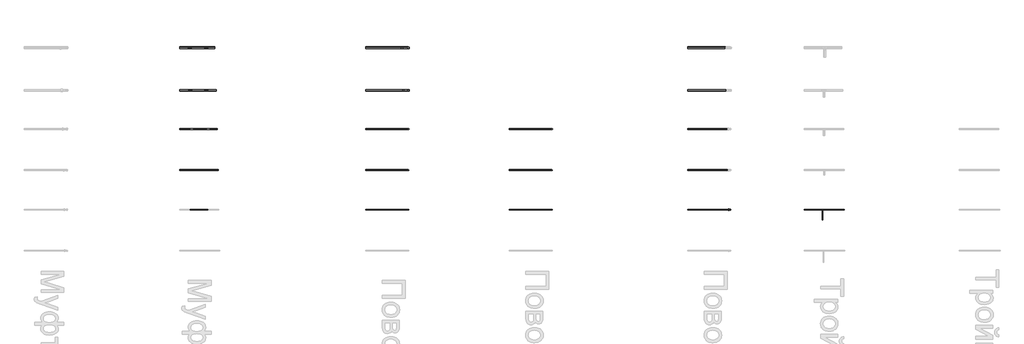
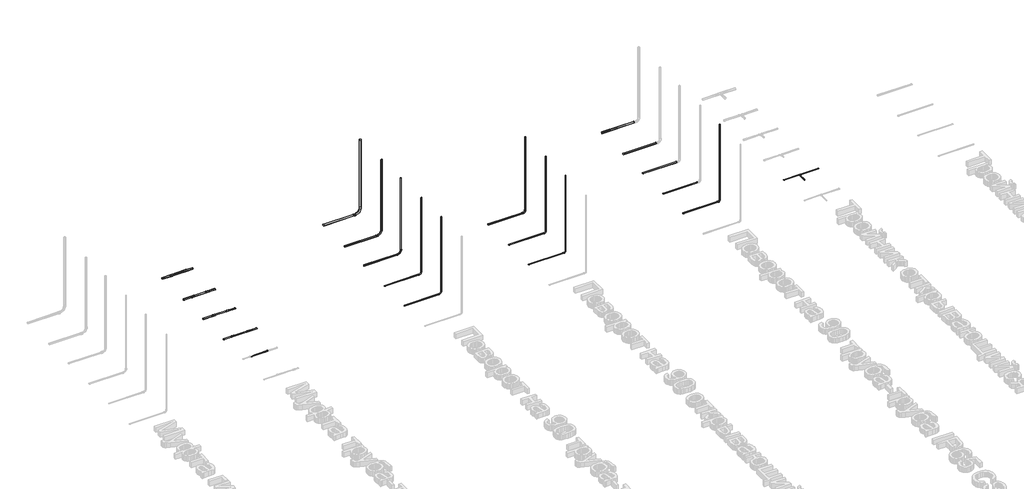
# One storey, part 4 of 33: 38 cable carrier segments, 19 cable carrier fittings.
"""IFC4 building model written with IfcOpenShell, lengths in millimetres."""

from ifc_helpers import new_model, si_unit, point, frame, frame_2d, origin, place, context, project, spatial, circle_curve, trimmed, segment, composite_curve, outline, extrude, transform, mapped, element, save
from components import cable_carrier_fitting_59e1ce25, cable_carrier_fitting_cf892bee, cable_carrier_fitting_6d3d2407, cable_carrier_fitting_2f32caac, cable_carrier_fitting_cf1a74b0, cable_carrier_fitting_bbf9297c, cable_carrier_fitting_fce20a62, cable_carrier_fitting_09f9ef3d, cable_carrier_fitting_f314b148, cable_carrier_fitting_f9eb6493, cable_carrier_fitting_3a765418, cable_carrier_fitting_e2d7f6ec, cable_carrier_fitting_13d0f231, cable_carrier_fitting_7fea5a78, cable_carrier_fitting_1439cf0d

model = new_model("IFC4")

# Units and contexts
model_context = context("Model", 3, world=origin())
ifc_project = project(units=[si_unit("LENGTHUNIT", "METRE", prefix="MILLI")], contexts=[model_context])

# Site, building, storey
site = spatial("IfcSite", under=ifc_project)
building = spatial("IfcBuilding", under=site)
storey = spatial("IfcBuildingStorey", under=building, Name="Уровень 1", Elevation=0.0)

# Cable carrier fittings
placement = place(None, origin())
cable_carrier_fitting_shape = cable_carrier_fitting_59e1ce25(model_context)
element("IfcCableCarrierFitting", 1, ObjectType="Муфта труба-труба IP65 MS : CTA10D-MS20-K41-050", at=placement, inside=storey, context=model_context, shape_type="MappedRepresentation", body=[
    mapped(cable_carrier_fitting_shape, transform((18786.5037048, 1027.6255993, 45.929251), x_axis=(1.0, 0.0, 0.0), y_axis=(0.0, 1.0, 0.0), z_axis=(0.0, 0.0, 1.0))),
])
cable_carrier_fitting_2_shape = cable_carrier_fitting_cf892bee(model_context)
element("IfcCableCarrierFitting", 2, ObjectType="Муфта труба-труба IP65 MS : CTA10D-MS50-K41-010", at=placement, inside=storey, context=model_context, shape_type="MappedRepresentation", body=[
    mapped(cable_carrier_fitting_2_shape, transform((18359.092069, 5207.6255993, 45.929251), x_axis=(-1.0, 0.0, 0.0), y_axis=(0.0, -1.0, 0.0), z_axis=(0.0, 0.0, 1.0))),
])
element("IfcCableCarrierFitting", 3, ObjectType="Муфта труба-труба IP65 MS : CTA10D-MS50-K41-010", at=placement, inside=storey, context=model_context, shape_type="MappedRepresentation", body=[
    mapped(cable_carrier_fitting_2_shape, transform((18784.4507919, 5207.6255993, 45.929251), x_axis=(-1.0, 0.0, 0.0), y_axis=(0.0, -1.0, 0.0), z_axis=(0.0, 0.0, 1.0))),
])
cable_carrier_fitting_3_shape = cable_carrier_fitting_6d3d2407(model_context)
element("IfcCableCarrierFitting", 4, ObjectType="Муфта труба-труба IP65 MS : CTA10D-MS40-K41-020", at=placement, inside=storey, context=model_context, shape_type="MappedRepresentation", body=[
    mapped(cable_carrier_fitting_3_shape, transform((18369.092069, 4107.6255993, 45.929251), x_axis=(-1.0, 0.0, 0.0), y_axis=(0.0, -1.0, 0.0), z_axis=(0.0, 0.0, 1.0))),
])
element("IfcCableCarrierFitting", 5, ObjectType="Муфта труба-труба IP65 MS : CTA10D-MS40-K41-020", at=placement, inside=storey, context=model_context, shape_type="MappedRepresentation", body=[
    mapped(cable_carrier_fitting_3_shape, transform((18780.9727478, 4107.6255993, 45.929251), x_axis=(-1.0, 0.0, 0.0), y_axis=(0.0, -1.0, 0.0), z_axis=(0.0, 0.0, 1.0))),
])
cable_carrier_fitting_4_shape = cable_carrier_fitting_2f32caac(model_context)
element("IfcCableCarrierFitting", 6, ObjectType="Муфта труба-труба IP65 MS : CTA10D-MS32-K41-025", at=placement, inside=storey, context=model_context, shape_type="MappedRepresentation", body=[
    mapped(cable_carrier_fitting_4_shape, transform((18410.0213201, 3107.6255993, 45.929251), x_axis=(-1.0, 0.0, 0.0), y_axis=(0.0, -1.0, 0.0), z_axis=(0.0, 0.0, 1.0))),
])
element("IfcCableCarrierFitting", 7, ObjectType="Муфта труба-труба IP65 MS : CTA10D-MS32-K41-025", at=placement, inside=storey, context=model_context, shape_type="MappedRepresentation", body=[
    mapped(cable_carrier_fitting_4_shape, transform((18831.9019988, 3107.6255993, 45.929251), x_axis=(-1.0, 0.0, 0.0), y_axis=(0.0, -1.0, 0.0), z_axis=(0.0, 0.0, 1.0))),
])
cable_carrier_fitting_5_shape = cable_carrier_fitting_cf1a74b0(model_context)
element("IfcCableCarrierFitting", 8, ObjectType="Муфта труба-труба IP65 MS : CTA10D-MS25-K41-050", at=placement, inside=storey, context=model_context, shape_type="MappedRepresentation", body=[
    mapped(cable_carrier_fitting_5_shape, transform((18369.6325174, 2047.6255993, 45.929251), x_axis=(-1.0, 0.0, 0.0), y_axis=(0.0, -1.0, 0.0), z_axis=(0.0, 0.0, 1.0))),
])
element("IfcCableCarrierFitting", 9, ObjectType="Муфта труба-труба IP65 MS : CTA10D-MS25-K41-050", at=placement, inside=storey, context=model_context, shape_type="MappedRepresentation", body=[
    mapped(cable_carrier_fitting_5_shape, transform((18824.5863662, 2047.6255993, 45.929251), x_axis=(-1.0, 0.0, 0.0), y_axis=(0.0, -1.0, 0.0), z_axis=(0.0, 0.0, 1.0))),
])
cable_carrier_fitting_6_shape = cable_carrier_fitting_bbf9297c(model_context)
element("IfcCableCarrierFitting", 10, ObjectType="Поворот на 90 открывающийся CIG : Поворот на 90 открывающийся CIG", at=placement, inside=storey, context=model_context, shape_type="MappedRepresentation", body=[
    mapped(cable_carrier_fitting_6_shape, transform((27694.4472755, 3107.6255993, 45.929251), x_axis=(1.0, 0.0, 0.0), y_axis=(0.0, 0.0, 1.0), z_axis=(0.0, -1.0, 0.0))),
])
cable_carrier_fitting_7_shape = cable_carrier_fitting_fce20a62(model_context)
element("IfcCableCarrierFitting", 11, ObjectType="Поворот на 90 открывающийся CIG : Поворот на 90 открывающийся CIG", at=placement, inside=storey, context=model_context, shape_type="MappedRepresentation", body=[
    mapped(cable_carrier_fitting_7_shape, transform((27694.4472755, 1027.6255993, 45.929251), x_axis=(1.0, 0.0, 0.0), y_axis=(0.0, 0.0, 1.0), z_axis=(0.0, -1.0, 0.0))),
])
cable_carrier_fitting_8_shape = cable_carrier_fitting_09f9ef3d(model_context)
element("IfcCableCarrierFitting", 12, ObjectType="Поворот на 90 открывающийся CIG : Поворот на 90 открывающийся CIG", at=placement, inside=storey, context=model_context, shape_type="MappedRepresentation", body=[
    mapped(cable_carrier_fitting_8_shape, transform((27694.4472755, 2047.6255993, 45.929251), x_axis=(1.0, 0.0, 0.0), y_axis=(0.0, 0.0, 1.0), z_axis=(0.0, -1.0, 0.0))),
])
cable_carrier_fitting_9_shape = cable_carrier_fitting_f314b148(model_context)
element("IfcCableCarrierFitting", 13, ObjectType="Поворот на 90 труба-труба IP65 CS : Поворот на 90 труба-труба IP65 CS", at=placement, inside=storey, context=model_context, shape_type="MappedRepresentation", body=[
    mapped(cable_carrier_fitting_9_shape, transform((32294.4472755, 1027.6255993, 45.929251), x_axis=(1.0, 0.0, 0.0), y_axis=(0.0, 0.0, 1.0), z_axis=(0.0, -1.0, 0.0))),
])
cable_carrier_fitting_10_shape = cable_carrier_fitting_f9eb6493(model_context)
element("IfcCableCarrierFitting", 14, ObjectType="Тройник открывающийся TIG : Тройник открывающийся TIG", at=placement, inside=storey, context=model_context, shape_type="MappedRepresentation", body=[
    mapped(cable_carrier_fitting_10_shape, transform((34667.079133, 1027.6255993, 45.929251), x_axis=(-0.9999999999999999, 0.0, 0.0), y_axis=(0.0, -1.0, 0.0), z_axis=(0.0, 0.0, 1.0000000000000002))),
])
cable_carrier_fitting_11_shape = cable_carrier_fitting_3a765418(model_context)
element("IfcCableCarrierFitting", 15, ObjectType="Поворот на 90 труба-труба CRSG : Поворот на 90 труба-труба CRSG", at=placement, inside=storey, context=model_context, shape_type="MappedRepresentation", body=[
    mapped(cable_carrier_fitting_11_shape, transform((23994.4472755, 1027.6255993, 45.929251), x_axis=(1.0, 0.0, 0.0), y_axis=(0.0, 0.0, 1.0), z_axis=(0.0, -1.0, 0.0))),
])
cable_carrier_fitting_12_shape = cable_carrier_fitting_e2d7f6ec(model_context)
element("IfcCableCarrierFitting", 16, ObjectType="Поворот на 90 труба-труба CRSG : Поворот на 90 труба-труба CRSG", at=placement, inside=storey, context=model_context, shape_type="MappedRepresentation", body=[
    mapped(cable_carrier_fitting_12_shape, transform((23994.4472755, 2047.6255993, 45.929251), x_axis=(1.0, 0.0, 0.0), y_axis=(0.0, 0.0, 1.0), z_axis=(0.0, -1.0, 0.0))),
])
cable_carrier_fitting_13_shape = cable_carrier_fitting_13d0f231(model_context)
element("IfcCableCarrierFitting", 17, ObjectType="Поворот на 90 труба-труба CRSG : Поворот на 90 труба-труба CRSG", at=placement, inside=storey, context=model_context, shape_type="MappedRepresentation", body=[
    mapped(cable_carrier_fitting_13_shape, transform((23994.4472755, 3107.6255993, 45.929251), x_axis=(1.0, 0.0, 0.0), y_axis=(0.0, 0.0, 1.0), z_axis=(0.0, -1.0, 0.0))),
])
cable_carrier_fitting_14_shape = cable_carrier_fitting_7fea5a78(model_context)
element("IfcCableCarrierFitting", 18, ObjectType="Поворот на 90 труба-труба CRSG : Поворот на 90 труба-труба CRSG", at=placement, inside=storey, context=model_context, shape_type="MappedRepresentation", body=[
    mapped(cable_carrier_fitting_14_shape, transform((23994.4472755, 4107.6255993, 45.929251), x_axis=(1.0, 0.0, 0.0), y_axis=(0.0, 0.0, 1.0), z_axis=(0.0, -1.0, 0.0))),
])
cable_carrier_fitting_15_shape = cable_carrier_fitting_1439cf0d(model_context)
element("IfcCableCarrierFitting", 19, ObjectType="Поворот на 90 труба-труба CRSG : Поворот на 90 труба-труба CRSG", at=placement, inside=storey, context=model_context, shape_type="MappedRepresentation", body=[
    mapped(cable_carrier_fitting_15_shape, transform((23994.4472755, 5207.6255993, 45.929251), x_axis=(1.0, 0.0, 0.0), y_axis=(0.0, 0.0, 1.0), z_axis=(0.0, -1.0, 0.0))),
])

# Cable carrier segments
element("IfcCableCarrierSegment", 20, ObjectType="Трубы гладкие жесткие ПВХ", at=placement, inside=storey, context=model_context, shape_type="SweptSolid", body=[
    extrude(outline(composite_curve([segment(trimmed(circle_curve(frame_2d((2047.6255993, 45.929251)), 12.5), [point((2060.1255993, 45.929251))], [point((2047.6255993, 33.429251))], False, "CARTESIAN"), True, "CONTINUOUS"), segment(trimmed(circle_curve(frame_2d((2047.6255993, 45.929251)), 12.5), [point((2047.6255993, 33.429251))], [point((2035.1255993, 45.929251))], False, "CARTESIAN"), True, "CONTINUOUS"), segment(trimmed(circle_curve(frame_2d((2047.6255993, 45.929251)), 12.5), [point((2035.1255993, 45.929251))], [point((2047.6255993, 58.429251))], False, "CARTESIAN"), True, "CONTINUOUS"), segment(trimmed(circle_curve(frame_2d((2047.6255993, 45.929251)), 12.5), [point((2047.6255993, 58.429251))], [point((2060.1255993, 45.929251))], False, "CARTESIAN"), True, "CONTINUOUS")], self_intersect=False)), frame((18094.4472755, 0.0, 0.0), z_axis=(1.0, 0.0, 0.0), x_axis=(0.0, 1.0, 0.0)), (0.0, 0.0, 1.0), 270.185242),
])
element("IfcCableCarrierSegment", 21, ObjectType="Трубы гладкие жесткие ПВХ", at=placement, inside=storey, context=model_context, shape_type="SweptSolid", body=[
    extrude(outline(composite_curve([segment(trimmed(circle_curve(frame_2d((3107.6255993, 45.929251)), 16.0), [point((3123.6255993, 45.929251))], [point((3107.6255993, 29.929251))], False, "CARTESIAN"), True, "CONTINUOUS"), segment(trimmed(circle_curve(frame_2d((3107.6255993, 45.929251)), 16.0), [point((3107.6255993, 29.929251))], [point((3091.6255993, 45.929251))], False, "CARTESIAN"), True, "CONTINUOUS"), segment(trimmed(circle_curve(frame_2d((3107.6255993, 45.929251)), 16.0), [point((3091.6255993, 45.929251))], [point((3107.6255993, 61.929251))], False, "CARTESIAN"), True, "CONTINUOUS"), segment(trimmed(circle_curve(frame_2d((3107.6255993, 45.929251)), 16.0), [point((3107.6255993, 61.929251))], [point((3123.6255993, 45.929251))], False, "CARTESIAN"), True, "CONTINUOUS")], self_intersect=False)), frame((18094.4472755, 0.0, 0.0), z_axis=(1.0, 0.0, 0.0), x_axis=(0.0, 1.0, 0.0)), (0.0, 0.0, 1.0), 310.5740446),
])
element("IfcCableCarrierSegment", 22, ObjectType="Трубы гладкие жесткие ПВХ", at=placement, inside=storey, context=model_context, shape_type="SweptSolid", body=[
    extrude(outline(composite_curve([segment(trimmed(circle_curve(frame_2d((4107.6255993, 45.929251)), 20.0), [point((4127.6255993, 45.929251))], [point((4107.6255993, 25.929251))], False, "CARTESIAN"), True, "CONTINUOUS"), segment(trimmed(circle_curve(frame_2d((4107.6255993, 45.929251)), 20.0), [point((4107.6255993, 25.929251))], [point((4087.6255993, 45.929251))], False, "CARTESIAN"), True, "CONTINUOUS"), segment(trimmed(circle_curve(frame_2d((4107.6255993, 45.929251)), 20.0), [point((4087.6255993, 45.929251))], [point((4107.6255993, 65.929251))], False, "CARTESIAN"), True, "CONTINUOUS"), segment(trimmed(circle_curve(frame_2d((4107.6255993, 45.929251)), 20.0), [point((4107.6255993, 65.929251))], [point((4127.6255993, 45.929251))], False, "CARTESIAN"), True, "CONTINUOUS")], self_intersect=False)), frame((18094.4472755, 0.0, 0.0), z_axis=(1.0, 0.0, 0.0), x_axis=(0.0, 1.0, 0.0)), (0.0, 0.0, 1.0), 269.6447936),
])
element("IfcCableCarrierSegment", 23, ObjectType="Трубы гладкие жесткие ПВХ", at=placement, inside=storey, context=model_context, shape_type="SweptSolid", body=[
    extrude(outline(composite_curve([segment(trimmed(circle_curve(frame_2d((5207.6255993, 45.929251)), 25.0), [point((5232.6255993, 45.929251))], [point((5207.6255993, 20.929251))], False, "CARTESIAN"), True, "CONTINUOUS"), segment(trimmed(circle_curve(frame_2d((5207.6255993, 45.929251)), 25.0), [point((5207.6255993, 20.929251))], [point((5182.6255993, 45.929251))], False, "CARTESIAN"), True, "CONTINUOUS"), segment(trimmed(circle_curve(frame_2d((5207.6255993, 45.929251)), 25.0), [point((5182.6255993, 45.929251))], [point((5207.6255993, 70.929251))], False, "CARTESIAN"), True, "CONTINUOUS"), segment(trimmed(circle_curve(frame_2d((5207.6255993, 45.929251)), 25.0), [point((5207.6255993, 70.929251))], [point((5232.6255993, 45.929251))], False, "CARTESIAN"), True, "CONTINUOUS")], self_intersect=False)), frame((18094.4472755, 0.0, 0.0), z_axis=(1.0, 0.0, 0.0), x_axis=(0.0, 1.0, 0.0)), (0.0, 0.0, 1.0), 259.6447936),
])
element("IfcCableCarrierSegment", 24, ObjectType="Трубы гладкие жесткие ПВХ", at=placement, inside=storey, context=model_context, shape_type="SweptSolid", body=[
    extrude(outline(composite_curve([segment(trimmed(circle_curve(frame_2d((1027.6255993, 45.929251)), 10.0), [point((1017.6255993, 45.929251))], [point((1027.6255993, 55.929251))], False, "CARTESIAN"), True, "CONTINUOUS"), segment(trimmed(circle_curve(frame_2d((1027.6255993, 45.929251)), 10.0), [point((1027.6255993, 55.929251))], [point((1037.6255993, 45.929251))], False, "CARTESIAN"), True, "CONTINUOUS"), segment(trimmed(circle_curve(frame_2d((1027.6255993, 45.929251)), 10.0), [point((1037.6255993, 45.929251))], [point((1027.6255993, 35.929251))], False, "CARTESIAN"), True, "CONTINUOUS"), segment(trimmed(circle_curve(frame_2d((1027.6255993, 45.929251)), 10.0), [point((1027.6255993, 35.929251))], [point((1017.6255993, 45.929251))], False, "CARTESIAN"), True, "CONTINUOUS")], self_intersect=False)), frame((18328.8944171, 0.0, 0.0), z_axis=(1.0, 0.0, 0.0), x_axis=(0.0, 1.0, 0.0)), (0.0, 0.0, 1.0), 452.6092877),
])
element("IfcCableCarrierSegment", 25, ObjectType="Трубы гладкие жесткие ПВХ", at=placement, inside=storey, context=model_context, shape_type="SweptSolid", body=[
    extrude(outline(composite_curve([segment(trimmed(circle_curve(frame_2d((2047.6255993, 45.929251)), 12.5), [point((2060.1255993, 45.929251))], [point((2047.6255993, 33.429251))], False, "CARTESIAN"), True, "CONTINUOUS"), segment(trimmed(circle_curve(frame_2d((2047.6255993, 45.929251)), 12.5), [point((2047.6255993, 33.429251))], [point((2035.1255993, 45.929251))], False, "CARTESIAN"), True, "CONTINUOUS"), segment(trimmed(circle_curve(frame_2d((2047.6255993, 45.929251)), 12.5), [point((2035.1255993, 45.929251))], [point((2047.6255993, 58.429251))], False, "CARTESIAN"), True, "CONTINUOUS"), segment(trimmed(circle_curve(frame_2d((2047.6255993, 45.929251)), 12.5), [point((2047.6255993, 58.429251))], [point((2060.1255993, 45.929251))], False, "CARTESIAN"), True, "CONTINUOUS")], self_intersect=False)), frame((18374.6325174, 0.0, 0.0), z_axis=(1.0, 0.0, 0.0), x_axis=(0.0, 1.0, 0.0)), (0.0, 0.0, 1.0), 444.9538487),
])
element("IfcCableCarrierSegment", 26, ObjectType="Трубы гладкие жесткие ПВХ", at=placement, inside=storey, context=model_context, shape_type="SweptSolid", body=[
    extrude(outline(composite_curve([segment(trimmed(circle_curve(frame_2d((2047.6255993, 45.929251)), 12.5), [point((2060.1255993, 45.929251))], [point((2047.6255993, 33.429251))], False, "CARTESIAN"), True, "CONTINUOUS"), segment(trimmed(circle_curve(frame_2d((2047.6255993, 45.929251)), 12.5), [point((2047.6255993, 33.429251))], [point((2035.1255993, 45.929251))], False, "CARTESIAN"), True, "CONTINUOUS"), segment(trimmed(circle_curve(frame_2d((2047.6255993, 45.929251)), 12.5), [point((2035.1255993, 45.929251))], [point((2047.6255993, 58.429251))], False, "CARTESIAN"), True, "CONTINUOUS"), segment(trimmed(circle_curve(frame_2d((2047.6255993, 45.929251)), 12.5), [point((2047.6255993, 58.429251))], [point((2060.1255993, 45.929251))], False, "CARTESIAN"), True, "CONTINUOUS")], self_intersect=False)), frame((18829.5863662, 0.0, 0.0), z_axis=(1.0, 0.0, 0.0), x_axis=(0.0, 1.0, 0.0)), (0.0, 0.0, 1.0), 261.9655093),
])
element("IfcCableCarrierSegment", 27, ObjectType="Трубы гладкие жесткие ПВХ", at=placement, inside=storey, context=model_context, shape_type="SweptSolid", body=[
    extrude(outline(composite_curve([segment(trimmed(circle_curve(frame_2d((3107.6255993, 45.929251)), 16.0), [point((3123.6255993, 45.929251))], [point((3107.6255993, 29.929251))], False, "CARTESIAN"), True, "CONTINUOUS"), segment(trimmed(circle_curve(frame_2d((3107.6255993, 45.929251)), 16.0), [point((3107.6255993, 29.929251))], [point((3091.6255993, 45.929251))], False, "CARTESIAN"), True, "CONTINUOUS"), segment(trimmed(circle_curve(frame_2d((3107.6255993, 45.929251)), 16.0), [point((3091.6255993, 45.929251))], [point((3107.6255993, 61.929251))], False, "CARTESIAN"), True, "CONTINUOUS"), segment(trimmed(circle_curve(frame_2d((3107.6255993, 45.929251)), 16.0), [point((3107.6255993, 61.929251))], [point((3123.6255993, 45.929251))], False, "CARTESIAN"), True, "CONTINUOUS")], self_intersect=False)), frame((18415.0213201, 0.0, 0.0), z_axis=(1.0, 0.0, 0.0), x_axis=(0.0, 1.0, 0.0)), (0.0, 0.0, 1.0), 411.8806788),
])
element("IfcCableCarrierSegment", 28, ObjectType="Трубы гладкие жесткие ПВХ", at=placement, inside=storey, context=model_context, shape_type="SweptSolid", body=[
    extrude(outline(composite_curve([segment(trimmed(circle_curve(frame_2d((3107.6255993, 45.929251)), 16.0), [point((3123.6255993, 45.929251))], [point((3107.6255993, 29.929251))], False, "CARTESIAN"), True, "CONTINUOUS"), segment(trimmed(circle_curve(frame_2d((3107.6255993, 45.929251)), 16.0), [point((3107.6255993, 29.929251))], [point((3091.6255993, 45.929251))], False, "CARTESIAN"), True, "CONTINUOUS"), segment(trimmed(circle_curve(frame_2d((3107.6255993, 45.929251)), 16.0), [point((3091.6255993, 45.929251))], [point((3107.6255993, 61.929251))], False, "CARTESIAN"), True, "CONTINUOUS"), segment(trimmed(circle_curve(frame_2d((3107.6255993, 45.929251)), 16.0), [point((3107.6255993, 61.929251))], [point((3123.6255993, 45.929251))], False, "CARTESIAN"), True, "CONTINUOUS")], self_intersect=False)), frame((18836.9019988, 0.0, 0.0), z_axis=(1.0, 0.0, 0.0), x_axis=(0.0, 1.0, 0.0)), (0.0, 0.0, 1.0), 229.2752766),
])
element("IfcCableCarrierSegment", 29, ObjectType="Трубы гладкие жесткие ПВХ", at=placement, inside=storey, context=model_context, shape_type="SweptSolid", body=[
    extrude(outline(composite_curve([segment(trimmed(circle_curve(frame_2d((4107.6255993, 45.929251)), 20.0), [point((4127.6255993, 45.929251))], [point((4107.6255993, 25.929251))], False, "CARTESIAN"), True, "CONTINUOUS"), segment(trimmed(circle_curve(frame_2d((4107.6255993, 45.929251)), 20.0), [point((4107.6255993, 25.929251))], [point((4087.6255993, 45.929251))], False, "CARTESIAN"), True, "CONTINUOUS"), segment(trimmed(circle_curve(frame_2d((4107.6255993, 45.929251)), 20.0), [point((4087.6255993, 45.929251))], [point((4107.6255993, 65.929251))], False, "CARTESIAN"), True, "CONTINUOUS"), segment(trimmed(circle_curve(frame_2d((4107.6255993, 45.929251)), 20.0), [point((4107.6255993, 65.929251))], [point((4127.6255993, 45.929251))], False, "CARTESIAN"), True, "CONTINUOUS")], self_intersect=False)), frame((18374.092069, 0.0, 0.0), z_axis=(1.0, 0.0, 0.0), x_axis=(0.0, 1.0, 0.0)), (0.0, 0.0, 1.0), 401.8806788),
])
element("IfcCableCarrierSegment", 30, ObjectType="Трубы гладкие жесткие ПВХ", at=placement, inside=storey, context=model_context, shape_type="SweptSolid", body=[
    extrude(outline(composite_curve([segment(trimmed(circle_curve(frame_2d((4107.6255993, 45.929251)), 20.0), [point((4127.6255993, 45.929251))], [point((4107.6255993, 25.929251))], False, "CARTESIAN"), True, "CONTINUOUS"), segment(trimmed(circle_curve(frame_2d((4107.6255993, 45.929251)), 20.0), [point((4107.6255993, 25.929251))], [point((4087.6255993, 45.929251))], False, "CARTESIAN"), True, "CONTINUOUS"), segment(trimmed(circle_curve(frame_2d((4107.6255993, 45.929251)), 20.0), [point((4087.6255993, 45.929251))], [point((4107.6255993, 65.929251))], False, "CARTESIAN"), True, "CONTINUOUS"), segment(trimmed(circle_curve(frame_2d((4107.6255993, 45.929251)), 20.0), [point((4107.6255993, 65.929251))], [point((4127.6255993, 45.929251))], False, "CARTESIAN"), True, "CONTINUOUS")], self_intersect=False)), frame((18785.9727478, 0.0, 0.0), z_axis=(1.0, 0.0, 0.0), x_axis=(0.0, 1.0, 0.0)), (0.0, 0.0, 1.0), 252.3915277),
])
element("IfcCableCarrierSegment", 31, ObjectType="Трубы гладкие жесткие ПВХ", at=placement, inside=storey, context=model_context, shape_type="SweptSolid", body=[
    extrude(outline(composite_curve([segment(trimmed(circle_curve(frame_2d((5207.6255993, 45.929251)), 25.0), [point((5232.6255993, 45.929251))], [point((5207.6255993, 20.929251))], False, "CARTESIAN"), True, "CONTINUOUS"), segment(trimmed(circle_curve(frame_2d((5207.6255993, 45.929251)), 25.0), [point((5207.6255993, 20.929251))], [point((5182.6255993, 45.929251))], False, "CARTESIAN"), True, "CONTINUOUS"), segment(trimmed(circle_curve(frame_2d((5207.6255993, 45.929251)), 25.0), [point((5182.6255993, 45.929251))], [point((5207.6255993, 70.929251))], False, "CARTESIAN"), True, "CONTINUOUS"), segment(trimmed(circle_curve(frame_2d((5207.6255993, 45.929251)), 25.0), [point((5207.6255993, 70.929251))], [point((5232.6255993, 45.929251))], False, "CARTESIAN"), True, "CONTINUOUS")], self_intersect=False)), frame((18364.092069, 0.0, 0.0), z_axis=(1.0, 0.0, 0.0), x_axis=(0.0, 1.0, 0.0)), (0.0, 0.0, 1.0), 415.3587229),
])
element("IfcCableCarrierSegment", 32, ObjectType="Трубы гладкие жесткие ПВХ", at=placement, inside=storey, context=model_context, shape_type="SweptSolid", body=[
    extrude(outline(composite_curve([segment(trimmed(circle_curve(frame_2d((5207.6255993, 45.929251)), 25.0), [point((5232.6255993, 45.929251))], [point((5207.6255993, 20.929251))], False, "CARTESIAN"), True, "CONTINUOUS"), segment(trimmed(circle_curve(frame_2d((5207.6255993, 45.929251)), 25.0), [point((5207.6255993, 20.929251))], [point((5182.6255993, 45.929251))], False, "CARTESIAN"), True, "CONTINUOUS"), segment(trimmed(circle_curve(frame_2d((5207.6255993, 45.929251)), 25.0), [point((5182.6255993, 45.929251))], [point((5207.6255993, 70.929251))], False, "CARTESIAN"), True, "CONTINUOUS"), segment(trimmed(circle_curve(frame_2d((5207.6255993, 45.929251)), 25.0), [point((5207.6255993, 70.929251))], [point((5232.6255993, 45.929251))], False, "CARTESIAN"), True, "CONTINUOUS")], self_intersect=False)), frame((18789.4507919, 0.0, 0.0), z_axis=(1.0, 0.0, 0.0), x_axis=(0.0, 1.0, 0.0)), (0.0, 0.0, 1.0), 214.5218836),
])
element("IfcCableCarrierSegment", 33, ObjectType="Трубы гладкие жесткие ПВХ", at=placement, inside=storey, context=model_context, shape_type="SweptSolid", body=[
    extrude(outline(composite_curve([segment(trimmed(circle_curve(frame_2d((1027.6255993, 45.929251)), 10.0), [point((1017.6255993, 45.929251))], [point((1027.6255993, 55.929251))], False, "CARTESIAN"), True, "CONTINUOUS"), segment(trimmed(circle_curve(frame_2d((1027.6255993, 45.929251)), 10.0), [point((1027.6255993, 55.929251))], [point((1037.6255993, 45.929251))], False, "CARTESIAN"), True, "CONTINUOUS"), segment(trimmed(circle_curve(frame_2d((1027.6255993, 45.929251)), 10.0), [point((1037.6255993, 45.929251))], [point((1027.6255993, 35.929251))], False, "CARTESIAN"), True, "CONTINUOUS"), segment(trimmed(circle_curve(frame_2d((1027.6255993, 45.929251)), 10.0), [point((1027.6255993, 35.929251))], [point((1017.6255993, 45.929251))], False, "CARTESIAN"), True, "CONTINUOUS")], self_intersect=False)), frame((22894.4472755, 0.0, 0.0), z_axis=(1.0, 0.0, 0.0), x_axis=(0.0, 1.0, 0.0)), (0.0, 0.0, 1.0), 1016.5102),
])
element("IfcCableCarrierSegment", 34, ObjectType="Трубы гладкие жесткие ПВХ", at=placement, inside=storey, context=model_context, shape_type="SweptSolid", body=[
    extrude(outline(composite_curve([segment(trimmed(circle_curve(frame_2d((23994.4472755, 1027.6255993)), 10.0), [point((23984.4472755, 1027.6255993))], [point((23994.4472755, 1037.6255993))], False, "CARTESIAN"), True, "CONTINUOUS"), segment(trimmed(circle_curve(frame_2d((23994.4472755, 1027.6255993)), 10.0), [point((23994.4472755, 1037.6255993))], [point((24004.4472755, 1027.6255993))], False, "CARTESIAN"), True, "CONTINUOUS"), segment(trimmed(circle_curve(frame_2d((23994.4472755, 1027.6255993)), 10.0), [point((24004.4472755, 1027.6255993))], [point((23994.4472755, 1017.6255993))], False, "CARTESIAN"), True, "CONTINUOUS"), segment(trimmed(circle_curve(frame_2d((23994.4472755, 1027.6255993)), 10.0), [point((23994.4472755, 1017.6255993))], [point((23984.4472755, 1027.6255993))], False, "CARTESIAN"), True, "CONTINUOUS")], self_intersect=False)), frame((0.0, 0.0, 129.419051), z_axis=(0.0, 0.0, 1.0), x_axis=(1.0, 0.0, 0.0)), (0.0, 0.0, 1.0), 2333.0204),
])
element("IfcCableCarrierSegment", 35, ObjectType="Трубы гладкие жесткие ПВХ", at=placement, inside=storey, context=model_context, shape_type="SweptSolid", body=[
    extrude(outline(composite_curve([segment(trimmed(circle_curve(frame_2d((2047.6255993, 45.929251)), 12.5), [point((2035.1255993, 45.929251))], [point((2047.6255993, 58.429251))], False, "CARTESIAN"), True, "CONTINUOUS"), segment(trimmed(circle_curve(frame_2d((2047.6255993, 45.929251)), 12.5), [point((2047.6255993, 58.429251))], [point((2060.1255993, 45.929251))], False, "CARTESIAN"), True, "CONTINUOUS"), segment(trimmed(circle_curve(frame_2d((2047.6255993, 45.929251)), 12.5), [point((2060.1255993, 45.929251))], [point((2047.6255993, 33.429251))], False, "CARTESIAN"), True, "CONTINUOUS"), segment(trimmed(circle_curve(frame_2d((2047.6255993, 45.929251)), 12.5), [point((2047.6255993, 33.429251))], [point((2035.1255993, 45.929251))], False, "CARTESIAN"), True, "CONTINUOUS")], self_intersect=False)), frame((22894.4472755, 0.0, 0.0), z_axis=(1.0, 0.0, 0.0), x_axis=(0.0, 1.0, 0.0)), (0.0, 0.0, 1.0), 997.1046),
])
element("IfcCableCarrierSegment", 36, ObjectType="Трубы гладкие жесткие ПВХ", at=placement, inside=storey, context=model_context, shape_type="SweptSolid", body=[
    extrude(outline(composite_curve([segment(trimmed(circle_curve(frame_2d((23994.4472755, 2047.6255993)), 12.5), [point((23981.9472755, 2047.6255993))], [point((23994.4472755, 2060.1255993))], False, "CARTESIAN"), True, "CONTINUOUS"), segment(trimmed(circle_curve(frame_2d((23994.4472755, 2047.6255993)), 12.5), [point((23994.4472755, 2060.1255993))], [point((24006.9472755, 2047.6255993))], False, "CARTESIAN"), True, "CONTINUOUS"), segment(trimmed(circle_curve(frame_2d((23994.4472755, 2047.6255993)), 12.5), [point((24006.9472755, 2047.6255993))], [point((23994.4472755, 2035.1255993))], False, "CARTESIAN"), True, "CONTINUOUS"), segment(trimmed(circle_curve(frame_2d((23994.4472755, 2047.6255993)), 12.5), [point((23994.4472755, 2035.1255993))], [point((23981.9472755, 2047.6255993))], False, "CARTESIAN"), True, "CONTINUOUS")], self_intersect=False)), frame((0.0, 0.0, 148.824651), z_axis=(0.0, 0.0, 1.0), x_axis=(1.0, 0.0, 0.0)), (0.0, 0.0, 1.0), 2294.2092),
])
element("IfcCableCarrierSegment", 37, ObjectType="Трубы гладкие жесткие ПВХ", at=placement, inside=storey, context=model_context, shape_type="SweptSolid", body=[
    extrude(outline(composite_curve([segment(trimmed(circle_curve(frame_2d((3107.6255993, 45.929251)), 16.0), [point((3091.6255993, 45.929251))], [point((3107.6255993, 61.929251))], False, "CARTESIAN"), True, "CONTINUOUS"), segment(trimmed(circle_curve(frame_2d((3107.6255993, 45.929251)), 16.0), [point((3107.6255993, 61.929251))], [point((3123.6255993, 45.929251))], False, "CARTESIAN"), True, "CONTINUOUS"), segment(trimmed(circle_curve(frame_2d((3107.6255993, 45.929251)), 16.0), [point((3123.6255993, 45.929251))], [point((3107.6255993, 29.929251))], False, "CARTESIAN"), True, "CONTINUOUS"), segment(trimmed(circle_curve(frame_2d((3107.6255993, 45.929251)), 16.0), [point((3107.6255993, 29.929251))], [point((3091.6255993, 45.929251))], False, "CARTESIAN"), True, "CONTINUOUS")], self_intersect=False)), frame((22894.4472755, 0.0, 0.0), z_axis=(1.0, 0.0, 0.0), x_axis=(0.0, 1.0, 0.0)), (0.0, 0.0, 1.0), 971.73),
])
element("IfcCableCarrierSegment", 38, ObjectType="Трубы гладкие жесткие ПВХ", at=placement, inside=storey, context=model_context, shape_type="SweptSolid", body=[
    extrude(outline(composite_curve([segment(trimmed(circle_curve(frame_2d((23994.4472755, 3107.6255993)), 16.0), [point((23978.4472755, 3107.6255993))], [point((23994.4472755, 3123.6255993))], False, "CARTESIAN"), True, "CONTINUOUS"), segment(trimmed(circle_curve(frame_2d((23994.4472755, 3107.6255993)), 16.0), [point((23994.4472755, 3123.6255993))], [point((24010.4472755, 3107.6255993))], False, "CARTESIAN"), True, "CONTINUOUS"), segment(trimmed(circle_curve(frame_2d((23994.4472755, 3107.6255993)), 16.0), [point((24010.4472755, 3107.6255993))], [point((23994.4472755, 3091.6255993))], False, "CARTESIAN"), True, "CONTINUOUS"), segment(trimmed(circle_curve(frame_2d((23994.4472755, 3107.6255993)), 16.0), [point((23994.4472755, 3091.6255993))], [point((23978.4472755, 3107.6255993))], False, "CARTESIAN"), True, "CONTINUOUS")], self_intersect=False)), frame((0.0, 0.0, 174.199251), z_axis=(0.0, 0.0, 1.0), x_axis=(1.0, 0.0, 0.0)), (0.0, 0.0, 1.0), 2243.46),
])
element("IfcCableCarrierSegment", 39, ObjectType="Трубы гладкие жесткие ПВХ", at=placement, inside=storey, context=model_context, shape_type="SweptSolid", body=[
    extrude(outline(composite_curve([segment(trimmed(circle_curve(frame_2d((4107.6255993, 45.929251)), 20.0), [point((4087.6255993, 45.929251))], [point((4107.6255993, 65.929251))], False, "CARTESIAN"), True, "CONTINUOUS"), segment(trimmed(circle_curve(frame_2d((4107.6255993, 45.929251)), 20.0), [point((4107.6255993, 65.929251))], [point((4127.6255993, 45.929251))], False, "CARTESIAN"), True, "CONTINUOUS"), segment(trimmed(circle_curve(frame_2d((4107.6255993, 45.929251)), 20.0), [point((4127.6255993, 45.929251))], [point((4107.6255993, 25.929251))], False, "CARTESIAN"), True, "CONTINUOUS"), segment(trimmed(circle_curve(frame_2d((4107.6255993, 45.929251)), 20.0), [point((4107.6255993, 25.929251))], [point((4087.6255993, 45.929251))], False, "CARTESIAN"), True, "CONTINUOUS")], self_intersect=False)), frame((22894.4472755, 0.0, 0.0), z_axis=(1.0, 0.0, 0.0), x_axis=(0.0, 1.0, 0.0)), (0.0, 0.0, 1.0), 943.917),
])
element("IfcCableCarrierSegment", 40, ObjectType="Трубы гладкие жесткие ПВХ", at=placement, inside=storey, context=model_context, shape_type="SweptSolid", body=[
    extrude(outline(composite_curve([segment(trimmed(circle_curve(frame_2d((23994.4472755, 4107.6255993)), 20.0), [point((23974.4472755, 4107.6255993))], [point((23994.4472755, 4127.6255993))], False, "CARTESIAN"), True, "CONTINUOUS"), segment(trimmed(circle_curve(frame_2d((23994.4472755, 4107.6255993)), 20.0), [point((23994.4472755, 4127.6255993))], [point((24014.4472755, 4107.6255993))], False, "CARTESIAN"), True, "CONTINUOUS"), segment(trimmed(circle_curve(frame_2d((23994.4472755, 4107.6255993)), 20.0), [point((24014.4472755, 4107.6255993))], [point((23994.4472755, 4087.6255993))], False, "CARTESIAN"), True, "CONTINUOUS"), segment(trimmed(circle_curve(frame_2d((23994.4472755, 4107.6255993)), 20.0), [point((23994.4472755, 4087.6255993))], [point((23974.4472755, 4107.6255993))], False, "CARTESIAN"), True, "CONTINUOUS")], self_intersect=False)), frame((0.0, 0.0, 202.012251), z_axis=(0.0, 0.0, 1.0), x_axis=(1.0, 0.0, 0.0)), (0.0, 0.0, 1.0), 2187.834),
])
element("IfcCableCarrierSegment", 41, ObjectType="Трубы гладкие жесткие ПВХ", at=placement, inside=storey, context=model_context, shape_type="SweptSolid", body=[
    extrude(outline(composite_curve([segment(trimmed(circle_curve(frame_2d((5207.6255993, 45.929251)), 25.0), [point((5182.6255993, 45.929251))], [point((5207.6255993, 70.929251))], False, "CARTESIAN"), True, "CONTINUOUS"), segment(trimmed(circle_curve(frame_2d((5207.6255993, 45.929251)), 25.0), [point((5207.6255993, 70.929251))], [point((5232.6255993, 45.929251))], False, "CARTESIAN"), True, "CONTINUOUS"), segment(trimmed(circle_curve(frame_2d((5207.6255993, 45.929251)), 25.0), [point((5232.6255993, 45.929251))], [point((5207.6255993, 20.929251))], False, "CARTESIAN"), True, "CONTINUOUS"), segment(trimmed(circle_curve(frame_2d((5207.6255993, 45.929251)), 25.0), [point((5207.6255993, 20.929251))], [point((5182.6255993, 45.929251))], False, "CARTESIAN"), True, "CONTINUOUS")], self_intersect=False)), frame((22894.4472755, 0.0, 0.0), z_axis=(1.0, 0.0, 0.0), x_axis=(0.0, 1.0, 0.0)), (0.0, 0.0, 1.0), 909.5254),
])
element("IfcCableCarrierSegment", 42, ObjectType="Трубы гладкие жесткие ПВХ", at=placement, inside=storey, context=model_context, shape_type="SweptSolid", body=[
    extrude(outline(composite_curve([segment(trimmed(circle_curve(frame_2d((23994.4472755, 5207.6255993)), 25.0), [point((23969.4472755, 5207.6255993))], [point((23994.4472755, 5232.6255993))], False, "CARTESIAN"), True, "CONTINUOUS"), segment(trimmed(circle_curve(frame_2d((23994.4472755, 5207.6255993)), 25.0), [point((23994.4472755, 5232.6255993))], [point((24019.4472755, 5207.6255993))], False, "CARTESIAN"), True, "CONTINUOUS"), segment(trimmed(circle_curve(frame_2d((23994.4472755, 5207.6255993)), 25.0), [point((24019.4472755, 5207.6255993))], [point((23994.4472755, 5182.6255993))], False, "CARTESIAN"), True, "CONTINUOUS"), segment(trimmed(circle_curve(frame_2d((23994.4472755, 5207.6255993)), 25.0), [point((23994.4472755, 5182.6255993))], [point((23969.4472755, 5207.6255993))], False, "CARTESIAN"), True, "CONTINUOUS")], self_intersect=False)), frame((0.0, 0.0, 236.403851), z_axis=(0.0, 0.0, 1.0), x_axis=(1.0, 0.0, 0.0)), (0.0, 0.0, 1.0), 2119.0508),
])
element("IfcCableCarrierSegment", 43, ObjectType="Трубы гладкие жесткие ПВХ", at=placement, inside=storey, context=model_context, shape_type="SweptSolid", body=[
    extrude(outline(composite_curve([segment(trimmed(circle_curve(frame_2d((1027.6255993, 45.929251)), 10.0), [point((1017.6255993, 45.929251))], [point((1027.6255993, 55.929251))], False, "CARTESIAN"), True, "CONTINUOUS"), segment(trimmed(circle_curve(frame_2d((1027.6255993, 45.929251)), 10.0), [point((1027.6255993, 55.929251))], [point((1037.6255993, 45.929251))], False, "CARTESIAN"), True, "CONTINUOUS"), segment(trimmed(circle_curve(frame_2d((1027.6255993, 45.929251)), 10.0), [point((1037.6255993, 45.929251))], [point((1027.6255993, 35.929251))], False, "CARTESIAN"), True, "CONTINUOUS"), segment(trimmed(circle_curve(frame_2d((1027.6255993, 45.929251)), 10.0), [point((1027.6255993, 35.929251))], [point((1017.6255993, 45.929251))], False, "CARTESIAN"), True, "CONTINUOUS")], self_intersect=False)), frame((26594.4472755, 0.0, 0.0), z_axis=(1.0, 0.0, 0.0), x_axis=(0.0, 1.0, 0.0)), (0.0, 0.0, 1.0), 1040.0),
])
element("IfcCableCarrierSegment", 44, ObjectType="Трубы гладкие жесткие ПВХ", at=placement, inside=storey, context=model_context, shape_type="SweptSolid", body=[
    extrude(outline(composite_curve([segment(trimmed(circle_curve(frame_2d((27694.4472755, 1027.6255993)), 10.0), [point((27684.4472755, 1027.6255993))], [point((27694.4472755, 1037.6255993))], False, "CARTESIAN"), True, "CONTINUOUS"), segment(trimmed(circle_curve(frame_2d((27694.4472755, 1027.6255993)), 10.0), [point((27694.4472755, 1037.6255993))], [point((27704.4472755, 1027.6255993))], False, "CARTESIAN"), True, "CONTINUOUS"), segment(trimmed(circle_curve(frame_2d((27694.4472755, 1027.6255993)), 10.0), [point((27704.4472755, 1027.6255993))], [point((27694.4472755, 1017.6255993))], False, "CARTESIAN"), True, "CONTINUOUS"), segment(trimmed(circle_curve(frame_2d((27694.4472755, 1027.6255993)), 10.0), [point((27694.4472755, 1017.6255993))], [point((27684.4472755, 1027.6255993))], False, "CARTESIAN"), True, "CONTINUOUS")], self_intersect=False)), frame((0.0, 0.0, 105.929251), z_axis=(0.0, 0.0, 1.0), x_axis=(1.0, 0.0, 0.0)), (0.0, 0.0, 1.0), 2356.5102),
])
element("IfcCableCarrierSegment", 45, ObjectType="Трубы гладкие жесткие ПВХ", at=placement, inside=storey, context=model_context, shape_type="SweptSolid", body=[
    extrude(outline(composite_curve([segment(trimmed(circle_curve(frame_2d((2047.6255993, 45.929251)), 12.5), [point((2035.1255993, 45.929251))], [point((2047.6255993, 58.429251))], False, "CARTESIAN"), True, "CONTINUOUS"), segment(trimmed(circle_curve(frame_2d((2047.6255993, 45.929251)), 12.5), [point((2047.6255993, 58.429251))], [point((2060.1255993, 45.929251))], False, "CARTESIAN"), True, "CONTINUOUS"), segment(trimmed(circle_curve(frame_2d((2047.6255993, 45.929251)), 12.5), [point((2060.1255993, 45.929251))], [point((2047.6255993, 33.429251))], False, "CARTESIAN"), True, "CONTINUOUS"), segment(trimmed(circle_curve(frame_2d((2047.6255993, 45.929251)), 12.5), [point((2047.6255993, 33.429251))], [point((2035.1255993, 45.929251))], False, "CARTESIAN"), True, "CONTINUOUS")], self_intersect=False)), frame((26594.4472755, 0.0, 0.0), z_axis=(1.0, 0.0, 0.0), x_axis=(0.0, 1.0, 0.0)), (0.0, 0.0, 1.0), 1030.0),
])
element("IfcCableCarrierSegment", 46, ObjectType="Трубы гладкие жесткие ПВХ", at=placement, inside=storey, context=model_context, shape_type="SweptSolid", body=[
    extrude(outline(composite_curve([segment(trimmed(circle_curve(frame_2d((27694.4472755, 2047.6255993)), 12.5), [point((27681.9472755, 2047.6255993))], [point((27694.4472755, 2060.1255993))], False, "CARTESIAN"), True, "CONTINUOUS"), segment(trimmed(circle_curve(frame_2d((27694.4472755, 2047.6255993)), 12.5), [point((27694.4472755, 2060.1255993))], [point((27706.9472755, 2047.6255993))], False, "CARTESIAN"), True, "CONTINUOUS"), segment(trimmed(circle_curve(frame_2d((27694.4472755, 2047.6255993)), 12.5), [point((27706.9472755, 2047.6255993))], [point((27694.4472755, 2035.1255993))], False, "CARTESIAN"), True, "CONTINUOUS"), segment(trimmed(circle_curve(frame_2d((27694.4472755, 2047.6255993)), 12.5), [point((27694.4472755, 2035.1255993))], [point((27681.9472755, 2047.6255993))], False, "CARTESIAN"), True, "CONTINUOUS")], self_intersect=False)), frame((0.0, 0.0, 115.929251), z_axis=(0.0, 0.0, 1.0), x_axis=(1.0, 0.0, 0.0)), (0.0, 0.0, 1.0), 2327.1046),
])
element("IfcCableCarrierSegment", 47, ObjectType="Трубы гладкие жесткие ПВХ", at=placement, inside=storey, context=model_context, shape_type="SweptSolid", body=[
    extrude(outline(composite_curve([segment(trimmed(circle_curve(frame_2d((3107.6255993, 45.929251)), 16.0), [point((3091.6255993, 45.929251))], [point((3107.6255993, 61.929251))], False, "CARTESIAN"), True, "CONTINUOUS"), segment(trimmed(circle_curve(frame_2d((3107.6255993, 45.929251)), 16.0), [point((3107.6255993, 61.929251))], [point((3123.6255993, 45.929251))], False, "CARTESIAN"), True, "CONTINUOUS"), segment(trimmed(circle_curve(frame_2d((3107.6255993, 45.929251)), 16.0), [point((3123.6255993, 45.929251))], [point((3107.6255993, 29.929251))], False, "CARTESIAN"), True, "CONTINUOUS"), segment(trimmed(circle_curve(frame_2d((3107.6255993, 45.929251)), 16.0), [point((3107.6255993, 29.929251))], [point((3091.6255993, 45.929251))], False, "CARTESIAN"), True, "CONTINUOUS")], self_intersect=False)), frame((26594.4472755, 0.0, 0.0), z_axis=(1.0, 0.0, 0.0), x_axis=(0.0, 1.0, 0.0)), (0.0, 0.0, 1.0), 1020.0),
])
element("IfcCableCarrierSegment", 48, ObjectType="Трубы гладкие жесткие ПВХ", at=placement, inside=storey, context=model_context, shape_type="SweptSolid", body=[
    extrude(outline(composite_curve([segment(trimmed(circle_curve(frame_2d((27694.4472755, 3107.6255993)), 16.0), [point((27678.4472755, 3107.6255993))], [point((27694.4472755, 3123.6255993))], False, "CARTESIAN"), True, "CONTINUOUS"), segment(trimmed(circle_curve(frame_2d((27694.4472755, 3107.6255993)), 16.0), [point((27694.4472755, 3123.6255993))], [point((27710.4472755, 3107.6255993))], False, "CARTESIAN"), True, "CONTINUOUS"), segment(trimmed(circle_curve(frame_2d((27694.4472755, 3107.6255993)), 16.0), [point((27710.4472755, 3107.6255993))], [point((27694.4472755, 3091.6255993))], False, "CARTESIAN"), True, "CONTINUOUS"), segment(trimmed(circle_curve(frame_2d((27694.4472755, 3107.6255993)), 16.0), [point((27694.4472755, 3091.6255993))], [point((27678.4472755, 3107.6255993))], False, "CARTESIAN"), True, "CONTINUOUS")], self_intersect=False)), frame((0.0, 0.0, 125.929251), z_axis=(0.0, 0.0, 1.0), x_axis=(1.0, 0.0, 0.0)), (0.0, 0.0, 1.0), 2291.73),
])
element("IfcCableCarrierSegment", 49, ObjectType="Трубы гладкие жесткие ПВХ", at=placement, inside=storey, context=model_context, shape_type="SweptSolid", body=[
    extrude(outline(composite_curve([segment(trimmed(circle_curve(frame_2d((1027.6255993, 45.929251)), 10.0), [point((1017.6255993, 45.929251))], [point((1027.6255993, 55.929251))], False, "CARTESIAN"), True, "CONTINUOUS"), segment(trimmed(circle_curve(frame_2d((1027.6255993, 45.929251)), 10.0), [point((1027.6255993, 55.929251))], [point((1037.6255993, 45.929251))], False, "CARTESIAN"), True, "CONTINUOUS"), segment(trimmed(circle_curve(frame_2d((1027.6255993, 45.929251)), 10.0), [point((1037.6255993, 45.929251))], [point((1027.6255993, 35.929251))], False, "CARTESIAN"), True, "CONTINUOUS"), segment(trimmed(circle_curve(frame_2d((1027.6255993, 45.929251)), 10.0), [point((1027.6255993, 35.929251))], [point((1017.6255993, 45.929251))], False, "CARTESIAN"), True, "CONTINUOUS")], self_intersect=False)), frame((31194.4472755, 0.0, 0.0), z_axis=(1.0, 0.0, 0.0), x_axis=(0.0, 1.0, 0.0)), (0.0, 0.0, 1.0), 1040.0),
])
element("IfcCableCarrierSegment", 50, ObjectType="Трубы гладкие жесткие ПВХ", at=placement, inside=storey, context=model_context, shape_type="SweptSolid", body=[
    extrude(outline(composite_curve([segment(trimmed(circle_curve(frame_2d((32294.4472755, 1027.6255993)), 10.0), [point((32284.4472755, 1027.6255993))], [point((32294.4472755, 1037.6255993))], False, "CARTESIAN"), True, "CONTINUOUS"), segment(trimmed(circle_curve(frame_2d((32294.4472755, 1027.6255993)), 10.0), [point((32294.4472755, 1037.6255993))], [point((32304.4472755, 1027.6255993))], False, "CARTESIAN"), True, "CONTINUOUS"), segment(trimmed(circle_curve(frame_2d((32294.4472755, 1027.6255993)), 10.0), [point((32304.4472755, 1027.6255993))], [point((32294.4472755, 1017.6255993))], False, "CARTESIAN"), True, "CONTINUOUS"), segment(trimmed(circle_curve(frame_2d((32294.4472755, 1027.6255993)), 10.0), [point((32294.4472755, 1017.6255993))], [point((32284.4472755, 1027.6255993))], False, "CARTESIAN"), True, "CONTINUOUS")], self_intersect=False)), frame((0.0, 0.0, 105.929251), z_axis=(0.0, 0.0, 1.0), x_axis=(1.0, 0.0, 0.0)), (0.0, 0.0, 1.0), 2356.5102),
])
element("IfcCableCarrierSegment", 51, ObjectType="Трубы гладкие жесткие ПВХ", at=placement, inside=storey, context=model_context, shape_type="SweptSolid", body=[
    extrude(outline(composite_curve([segment(trimmed(circle_curve(frame_2d((2047.6255993, 45.929251)), 12.5), [point((2035.1255993, 45.929251))], [point((2047.6255993, 58.429251))], False, "CARTESIAN"), True, "CONTINUOUS"), segment(trimmed(circle_curve(frame_2d((2047.6255993, 45.929251)), 12.5), [point((2047.6255993, 58.429251))], [point((2060.1255993, 45.929251))], False, "CARTESIAN"), True, "CONTINUOUS"), segment(trimmed(circle_curve(frame_2d((2047.6255993, 45.929251)), 12.5), [point((2060.1255993, 45.929251))], [point((2047.6255993, 33.429251))], False, "CARTESIAN"), True, "CONTINUOUS"), segment(trimmed(circle_curve(frame_2d((2047.6255993, 45.929251)), 12.5), [point((2047.6255993, 33.429251))], [point((2035.1255993, 45.929251))], False, "CARTESIAN"), True, "CONTINUOUS")], self_intersect=False)), frame((31194.4472755, 0.0, 0.0), z_axis=(1.0, 0.0, 0.0), x_axis=(0.0, 1.0, 0.0)), (0.0, 0.0, 1.0), 1030.0),
])
element("IfcCableCarrierSegment", 52, ObjectType="Трубы гладкие жесткие ПВХ", at=placement, inside=storey, context=model_context, shape_type="SweptSolid", body=[
    extrude(outline(composite_curve([segment(trimmed(circle_curve(frame_2d((3107.6255993, 45.929251)), 16.0), [point((3091.6255993, 45.929251))], [point((3107.6255993, 61.929251))], False, "CARTESIAN"), True, "CONTINUOUS"), segment(trimmed(circle_curve(frame_2d((3107.6255993, 45.929251)), 16.0), [point((3107.6255993, 61.929251))], [point((3123.6255993, 45.929251))], False, "CARTESIAN"), True, "CONTINUOUS"), segment(trimmed(circle_curve(frame_2d((3107.6255993, 45.929251)), 16.0), [point((3123.6255993, 45.929251))], [point((3107.6255993, 29.929251))], False, "CARTESIAN"), True, "CONTINUOUS"), segment(trimmed(circle_curve(frame_2d((3107.6255993, 45.929251)), 16.0), [point((3107.6255993, 29.929251))], [point((3091.6255993, 45.929251))], False, "CARTESIAN"), True, "CONTINUOUS")], self_intersect=False)), frame((31194.4472755, 0.0, 0.0), z_axis=(1.0, 0.0, 0.0), x_axis=(0.0, 1.0, 0.0)), (0.0, 0.0, 1.0), 1020.0),
])
element("IfcCableCarrierSegment", 53, ObjectType="Трубы гладкие жесткие ПВХ", at=placement, inside=storey, context=model_context, shape_type="SweptSolid", body=[
    extrude(outline(composite_curve([segment(trimmed(circle_curve(frame_2d((4107.6255993, 45.929251)), 20.0), [point((4087.6255993, 45.929251))], [point((4107.6255993, 65.929251))], False, "CARTESIAN"), True, "CONTINUOUS"), segment(trimmed(circle_curve(frame_2d((4107.6255993, 45.929251)), 20.0), [point((4107.6255993, 65.929251))], [point((4127.6255993, 45.929251))], False, "CARTESIAN"), True, "CONTINUOUS"), segment(trimmed(circle_curve(frame_2d((4107.6255993, 45.929251)), 20.0), [point((4127.6255993, 45.929251))], [point((4107.6255993, 25.929251))], False, "CARTESIAN"), True, "CONTINUOUS"), segment(trimmed(circle_curve(frame_2d((4107.6255993, 45.929251)), 20.0), [point((4107.6255993, 25.929251))], [point((4087.6255993, 45.929251))], False, "CARTESIAN"), True, "CONTINUOUS")], self_intersect=False)), frame((31194.4472755, 0.0, 0.0), z_axis=(1.0, 0.0, 0.0), x_axis=(0.0, 1.0, 0.0)), (0.0, 0.0, 1.0), 990.0),
])
element("IfcCableCarrierSegment", 54, ObjectType="Трубы гладкие жесткие ПВХ", at=placement, inside=storey, context=model_context, shape_type="SweptSolid", body=[
    extrude(outline(composite_curve([segment(trimmed(circle_curve(frame_2d((5207.6255993, 45.929251)), 25.0), [point((5182.6255993, 45.929251))], [point((5207.6255993, 70.929251))], False, "CARTESIAN"), True, "CONTINUOUS"), segment(trimmed(circle_curve(frame_2d((5207.6255993, 45.929251)), 25.0), [point((5207.6255993, 70.929251))], [point((5232.6255993, 45.929251))], False, "CARTESIAN"), True, "CONTINUOUS"), segment(trimmed(circle_curve(frame_2d((5207.6255993, 45.929251)), 25.0), [point((5232.6255993, 45.929251))], [point((5207.6255993, 20.929251))], False, "CARTESIAN"), True, "CONTINUOUS"), segment(trimmed(circle_curve(frame_2d((5207.6255993, 45.929251)), 25.0), [point((5207.6255993, 20.929251))], [point((5182.6255993, 45.929251))], False, "CARTESIAN"), True, "CONTINUOUS")], self_intersect=False)), frame((31194.4472755, 0.0, 0.0), z_axis=(1.0, 0.0, 0.0), x_axis=(0.0, 1.0, 0.0)), (0.0, 0.0, 1.0), 970.0),
])
element("IfcCableCarrierSegment", 55, ObjectType="Трубы гладкие жесткие ПВХ", at=placement, inside=storey, context=model_context, shape_type="SweptSolid", body=[
    extrude(outline(composite_curve([segment(trimmed(circle_curve(frame_2d((1027.6255993, 45.929251)), 10.0), [point((1017.6255993, 45.929251))], [point((1027.6255993, 55.929251))], False, "CARTESIAN"), True, "CONTINUOUS"), segment(trimmed(circle_curve(frame_2d((1027.6255993, 45.929251)), 10.0), [point((1027.6255993, 55.929251))], [point((1037.6255993, 45.929251))], False, "CARTESIAN"), True, "CONTINUOUS"), segment(trimmed(circle_curve(frame_2d((1027.6255993, 45.929251)), 10.0), [point((1037.6255993, 45.929251))], [point((1027.6255993, 35.929251))], False, "CARTESIAN"), True, "CONTINUOUS"), segment(trimmed(circle_curve(frame_2d((1027.6255993, 45.929251)), 10.0), [point((1027.6255993, 35.929251))], [point((1017.6255993, 45.929251))], False, "CARTESIAN"), True, "CONTINUOUS")], self_intersect=False)), frame((34697.079133, 0.0, 0.0), z_axis=(1.0, 0.0, 0.0), x_axis=(0.0, 1.0, 0.0)), (0.0, 0.0, 1.0), 537.3681425),
])
element("IfcCableCarrierSegment", 56, ObjectType="Трубы гладкие жесткие ПВХ", at=placement, inside=storey, context=model_context, shape_type="SweptSolid", body=[
    extrude(outline(composite_curve([segment(trimmed(circle_curve(frame_2d((0.0, -10.0)), 10.0), [point((0.0, 0.0))], [point((10.0, -10.0))], False, "CARTESIAN"), True, "CONTINUOUS"), segment(trimmed(circle_curve(frame_2d((0.0, -10.0)), 10.0), [point((10.0, -10.0))], [point((0.0, -20.0))], False, "CARTESIAN"), True, "CONTINUOUS"), segment(trimmed(circle_curve(frame_2d((0.0, -10.0)), 10.0), [point((0.0, -20.0))], [point((-10.0, -10.0))], False, "CARTESIAN"), True, "CONTINUOUS"), segment(trimmed(circle_curve(frame_2d((0.0, -10.0)), 10.0), [point((-10.0, -10.0))], [point((0.0, 0.0))], False, "CARTESIAN"), True, "CONTINUOUS")], self_intersect=False)), frame((34657.079133, 767.6255993, 45.9), z_axis=(0.0, 0.9999999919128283, 0.00012717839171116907), x_axis=(0.0, 0.00012717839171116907, -0.9999999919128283)), (0.0, 0.0, 1.0), 230.0000019),
])
element("IfcCableCarrierSegment", 57, ObjectType="Трубы гладкие жесткие ПВХ", at=placement, inside=storey, context=model_context, shape_type="SweptSolid", body=[
    extrude(outline(composite_curve([segment(trimmed(circle_curve(frame_2d((1027.6255993, 45.929251)), 10.0), [point((1017.6255993, 45.929251))], [point((1027.6255993, 55.929251))], False, "CARTESIAN"), True, "CONTINUOUS"), segment(trimmed(circle_curve(frame_2d((1027.6255993, 45.929251)), 10.0), [point((1027.6255993, 55.929251))], [point((1037.6255993, 45.929251))], False, "CARTESIAN"), True, "CONTINUOUS"), segment(trimmed(circle_curve(frame_2d((1027.6255993, 45.929251)), 10.0), [point((1037.6255993, 45.929251))], [point((1027.6255993, 35.929251))], False, "CARTESIAN"), True, "CONTINUOUS"), segment(trimmed(circle_curve(frame_2d((1027.6255993, 45.929251)), 10.0), [point((1027.6255993, 35.929251))], [point((1017.6255993, 45.929251))], False, "CARTESIAN"), True, "CONTINUOUS")], self_intersect=False)), frame((34194.4472755, 0.0, 0.0), z_axis=(1.0, 0.0, 0.0), x_axis=(0.0, 1.0, 0.0)), (0.0, 0.0, 1.0), 442.6318575),
])

save(model, "model.ifc")
